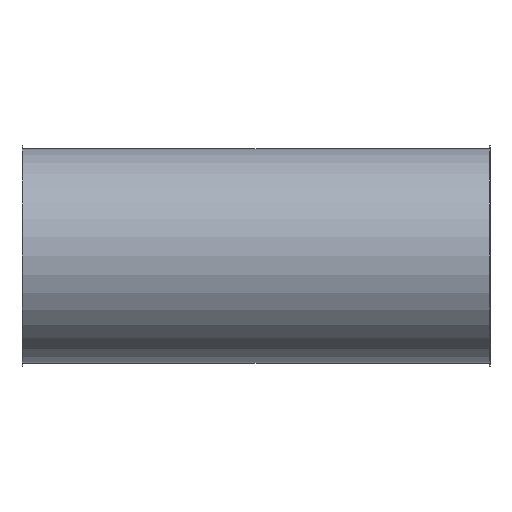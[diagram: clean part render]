
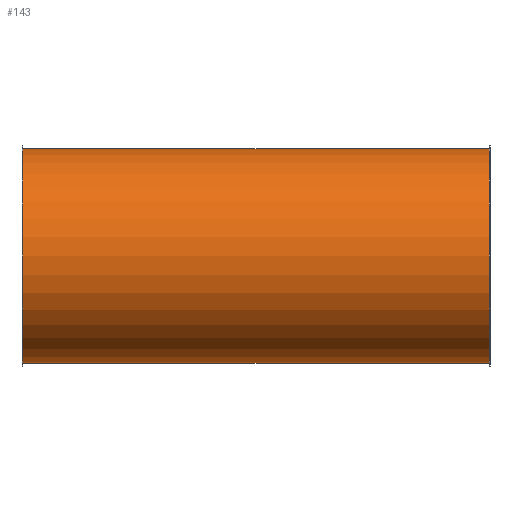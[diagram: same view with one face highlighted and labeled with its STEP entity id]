
A CAD part, front view. The second image highlights one B-rep face of the part: STEP entity #143.
In plain terms, the highlighted cylindrical face has radius 226 mm (diameter 452 mm), a full revolution.
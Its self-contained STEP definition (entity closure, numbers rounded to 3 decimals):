
#112=CARTESIAN_POINT('',(952.119,2.817,0.0));
#113=VERTEX_POINT('',#112);
#114=CARTESIAN_POINT('',(952.119,228.817,0.0));
#115=DIRECTION('',(-1.0,0.0,0.0));
#116=DIRECTION('',(0.0,-1.0,0.0));
#117=AXIS2_PLACEMENT_3D('',#114,#115,#116);
#118=CIRCLE('',#117,226.);
#119=EDGE_CURVE('',#113,#113,#118,.T.);
#124=CARTESIAN_POINT('',(461.119,228.817,0.0));
#125=DIRECTION('',(-1.0,0.,0.0));
#126=DIRECTION('',(0.0,-1.0,0.0));
#127=AXIS2_PLACEMENT_3D('',#124,#125,#126);
#128=CYLINDRICAL_SURFACE('',#127,226.);
#129=CARTESIAN_POINT('',(-29.881,2.817,0.0));
#130=VERTEX_POINT('',#129);
#131=CARTESIAN_POINT('',(-29.881,228.817,0.0));
#132=DIRECTION('',(-1.0,0.0,0.0));
#133=DIRECTION('',(0.0,-1.0,0.0));
#134=AXIS2_PLACEMENT_3D('',#131,#132,#133);
#135=CIRCLE('',#134,226.0);
#136=EDGE_CURVE('',#130,#130,#135,.T.);
#137=ORIENTED_EDGE('',*,*,#136,.F.);
#138=EDGE_LOOP('',(#137));
#139=FACE_OUTER_BOUND('',#138,.T.);
#140=ORIENTED_EDGE('',*,*,#119,.T.);
#141=EDGE_LOOP('',(#140));
#142=FACE_BOUND('',#141,.T.);
#143=ADVANCED_FACE('',(#139,#142),#128,.T.);
